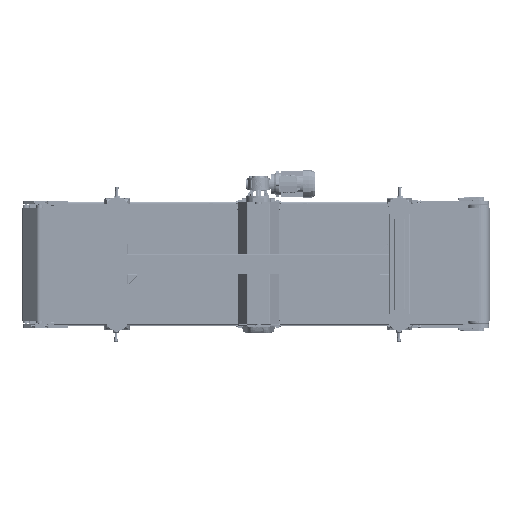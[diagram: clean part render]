
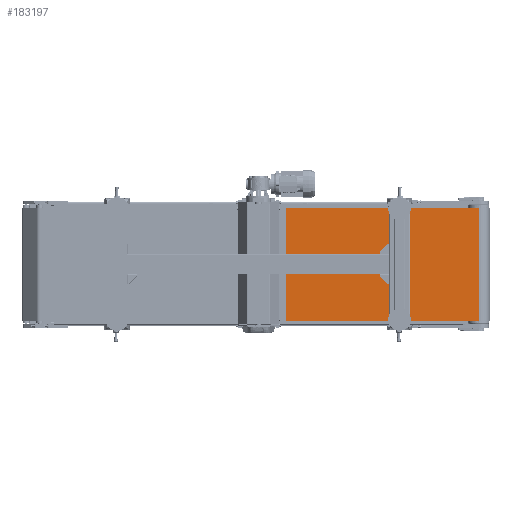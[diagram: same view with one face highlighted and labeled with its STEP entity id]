
A CAD part, front view. The second image highlights one B-rep face of the part: STEP entity #183197.
In plain terms, the highlighted planar face has unit normal (0, -1, 0).
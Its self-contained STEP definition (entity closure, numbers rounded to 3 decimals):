
#215 = VERTEX_POINT ( 'NONE', #139097 ) ;
#9015 = ORIENTED_EDGE ( 'NONE', *, *, #229667, .F. ) ;
#12414 = DIRECTION ( 'NONE',  ( 1., 0., 0. ) ) ;
#13133 = VERTEX_POINT ( 'NONE', #286733 ) ;
#14002 = LINE ( 'NONE', #112674, #211669 ) ;
#37802 = LINE ( 'NONE', #65288, #147609 ) ;
#42603 = DIRECTION ( 'NONE',  ( 0., 0., -1. ) ) ;
#60579 = EDGE_CURVE ( 'NONE', #64905, #215, #144755, .T. ) ;
#64905 = VERTEX_POINT ( 'NONE', #154602 ) ;
#65288 = CARTESIAN_POINT ( 'NONE',  ( 974., -49.5, 250. ) ) ;
#89370 = VECTOR ( 'NONE', #219212, 1000. ) ;
#104873 = EDGE_LOOP ( 'NONE', ( #238840, #9015, #188667, #150896 ) ) ;
#112674 = CARTESIAN_POINT ( 'NONE',  ( 61., -49.5, -250. ) ) ;
#116549 = LINE ( 'NONE', #242726, #208953 ) ;
#117296 = CARTESIAN_POINT ( 'NONE',  ( 61., -49.5, 250. ) ) ;
#123079 = CARTESIAN_POINT ( 'NONE',  ( 61., -49.5, 250. ) ) ;
#124656 = DIRECTION ( 'NONE',  ( -1., 0., 0. ) ) ;
#133231 = EDGE_CURVE ( 'NONE', #217030, #13133, #14002, .T. ) ;
#139097 = CARTESIAN_POINT ( 'NONE',  ( 974., -49.5, 250. ) ) ;
#144755 = LINE ( 'NONE', #117296, #89370 ) ;
#147609 = VECTOR ( 'NONE', #42603, 1000. ) ;
#150896 = ORIENTED_EDGE ( 'NONE', *, *, #184994, .T. ) ;
#154602 = CARTESIAN_POINT ( 'NONE',  ( 61., -49.5, 250. ) ) ;
#183197 = ADVANCED_FACE ( 'NONE', ( #271971 ), #197525, .F. ) ;
#184994 = EDGE_CURVE ( 'NONE', #64905, #217030, #116549, .T. ) ;
#188667 = ORIENTED_EDGE ( 'NONE', *, *, #60579, .F. ) ;
#191190 = DIRECTION ( 'NONE',  ( 0., 1., 0. ) ) ;
#192570 = AXIS2_PLACEMENT_3D ( 'NONE', #123079, #191190, #124656 ) ;
#192622 = DIRECTION ( 'NONE',  ( 0., 0., -1. ) ) ;
#197525 = PLANE ( 'NONE',  #192570 ) ;
#208953 = VECTOR ( 'NONE', #192622, 1000. ) ;
#211669 = VECTOR ( 'NONE', #12414, 1000. ) ;
#217030 = VERTEX_POINT ( 'NONE', #275882 ) ;
#219212 = DIRECTION ( 'NONE',  ( 1., 0., 0. ) ) ;
#229667 = EDGE_CURVE ( 'NONE', #215, #13133, #37802, .T. ) ;
#238840 = ORIENTED_EDGE ( 'NONE', *, *, #133231, .T. ) ;
#242726 = CARTESIAN_POINT ( 'NONE',  ( 61., -49.5, 250. ) ) ;
#271971 = FACE_OUTER_BOUND ( 'NONE', #104873, .T. ) ;
#275882 = CARTESIAN_POINT ( 'NONE',  ( 61., -49.5, -250. ) ) ;
#286733 = CARTESIAN_POINT ( 'NONE',  ( 974., -49.5, -250. ) ) ;
